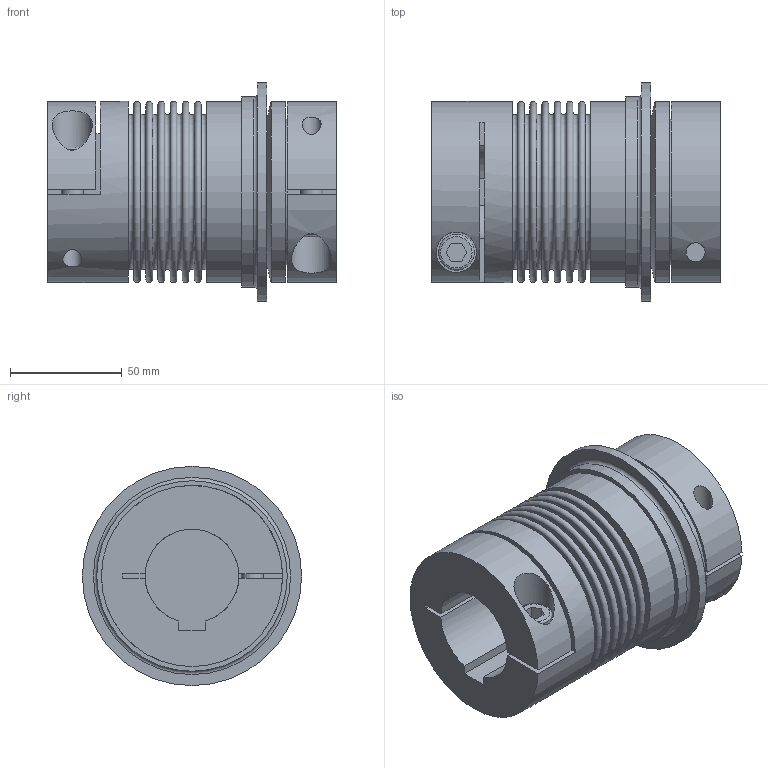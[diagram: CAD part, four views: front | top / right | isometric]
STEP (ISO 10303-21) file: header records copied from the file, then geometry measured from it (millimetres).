
FILE_DESCRIPTION(/* description */ ('STEP AP214'),/* implementation_level */ '2;1');
FILE_NAME(/* name */ 'C:\Diequa Files\DieQua Coupling\TB2\STP\TB2.80.129.F.#.#.stp',/* time_stamp */ '2019-04-26T10:41:27-05:00',/* author */ ('DiequaCAD'),/* organization */ (''),/* preprocessor_version */ 'ST-DEVELOPER v18',/* originating_system */ 'Autodesk Inventor 2020',/* authorisation */ ' ');
FILE_SCHEMA (('AUTOMOTIVE_DESIGN { 1 0 10303 214 3 1 1 }'));
Length unit declared in the file: millimetre
Products named in the file (1): TB2.80.129.F.#.#
Bounding box: 129 x 98 x 98 mm (x, y, z)
Volume: 537410.2 mm3; surface area: 90217.8 mm2
Topology: 1 solids, 1 shells, 98 faces, 232 edges, 164 vertices
Faces by surface type: plane 61, cylinder 20, torus 16, cone 1
Full cylindrical faces by diameter (mm): 8.5 x2, 10 x2, 11 x2, 16 x2, 18 x2, 65 x1, 81 x3, 85.2 x1, 98 x1
Entity records: 3121 total; most frequent: CARTESIAN_POINT 647, DIRECTION 547, ORIENTED_EDGE 464, EDGE_CURVE 232, AXIS2_PLACEMENT_3D 222, VERTEX_POINT 164, EDGE_LOOP 130, CIRCLE 123
